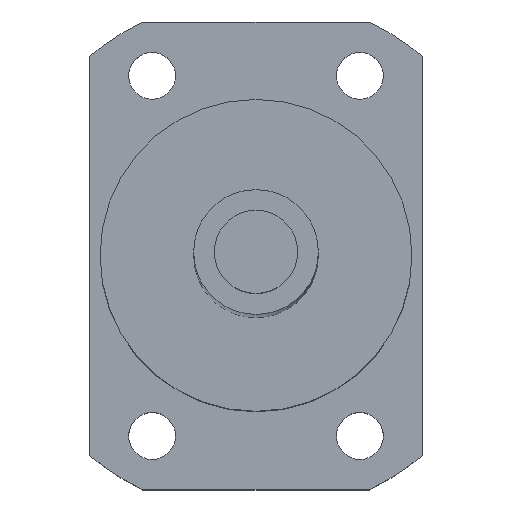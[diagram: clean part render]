
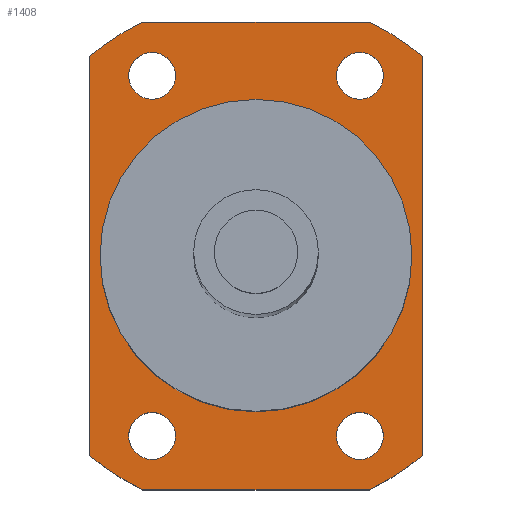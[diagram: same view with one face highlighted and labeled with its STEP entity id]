
A CAD part, top view. The second image highlights one B-rep face of the part: STEP entity #1408.
In plain terms, the highlighted planar face has unit normal (0, 0, 1).
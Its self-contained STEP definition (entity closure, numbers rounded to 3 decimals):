
#328=CARTESIAN_POINT('',(10.,17.321,255.));
#329=DIRECTION('',(0.,0.,-1.));
#330=DIRECTION('',(1.,0.,0.));
#331=AXIS2_PLACEMENT_3D('',#328,#329,#330);
#333=CARTESIAN_POINT('',(10.,17.321,255.));
#334=DIRECTION('',(0.,0.,-1.));
#335=DIRECTION('',(-1.,0.,0.));
#336=AXIS2_PLACEMENT_3D('',#333,#334,#335);
#338=CARTESIAN_POINT('',(-10.,17.321,255.));
#339=DIRECTION('',(0.,0.,-1.));
#340=DIRECTION('',(1.,0.,0.));
#341=AXIS2_PLACEMENT_3D('',#338,#339,#340);
#343=CARTESIAN_POINT('',(-10.,17.321,255.));
#344=DIRECTION('',(0.,0.,-1.));
#345=DIRECTION('',(-1.,0.,0.));
#346=AXIS2_PLACEMENT_3D('',#343,#344,#345);
#348=CARTESIAN_POINT('',(10.,-17.321,255.));
#349=DIRECTION('',(0.,0.,-1.));
#350=DIRECTION('',(1.,0.,0.));
#351=AXIS2_PLACEMENT_3D('',#348,#349,#350);
#353=CARTESIAN_POINT('',(10.,-17.321,255.));
#354=DIRECTION('',(0.,0.,-1.));
#355=DIRECTION('',(-1.,0.,0.));
#356=AXIS2_PLACEMENT_3D('',#353,#354,#355);
#358=CARTESIAN_POINT('',(-10.,-17.321,255.));
#359=DIRECTION('',(0.,0.,-1.));
#360=DIRECTION('',(1.,0.,0.));
#361=AXIS2_PLACEMENT_3D('',#358,#359,#360);
#363=CARTESIAN_POINT('',(-10.,-17.321,255.));
#364=DIRECTION('',(0.,0.,-1.));
#365=DIRECTION('',(-1.,0.,0.));
#366=AXIS2_PLACEMENT_3D('',#363,#364,#365);
#368=CARTESIAN_POINT('',(0.,0.,255.));
#369=DIRECTION('',(0.,0.,1.));
#370=DIRECTION('',(1.,0.,0.));
#371=AXIS2_PLACEMENT_3D('',#368,#369,#370);
#373=CARTESIAN_POINT('',(0.,0.,255.));
#374=DIRECTION('',(0.,0.,1.));
#375=DIRECTION('',(-1.,0.,0.));
#376=AXIS2_PLACEMENT_3D('',#373,#374,#375);
#378=DIRECTION('',(1.,0.,0.));
#379=VECTOR('',#378,21.794);
#380=CARTESIAN_POINT('',(-10.897,22.5,255.));
#381=LINE('',#380,#379);
#382=CARTESIAN_POINT('',(0.,0.,255.));
#383=DIRECTION('',(0.,0.,1.));
#384=DIRECTION('',(0.64,0.768,0.));
#385=AXIS2_PLACEMENT_3D('',#382,#383,#384);
#387=DIRECTION('',(0.,1.,0.));
#388=VECTOR('',#387,38.419);
#389=CARTESIAN_POINT('',(16.,-19.209,255.));
#390=LINE('',#389,#388);
#391=CARTESIAN_POINT('',(0.,0.,255.));
#392=DIRECTION('',(0.,0.,1.));
#393=DIRECTION('',(0.436,-0.9,0.));
#394=AXIS2_PLACEMENT_3D('',#391,#392,#393);
#396=DIRECTION('',(1.,0.,0.));
#397=VECTOR('',#396,21.794);
#398=CARTESIAN_POINT('',(-10.897,-22.5,255.));
#399=LINE('',#398,#397);
#400=CARTESIAN_POINT('',(0.,0.,255.));
#401=DIRECTION('',(0.,0.,1.));
#402=DIRECTION('',(-0.64,-0.768,0.));
#403=AXIS2_PLACEMENT_3D('',#400,#401,#402);
#405=DIRECTION('',(0.,-1.,0.));
#406=VECTOR('',#405,38.419);
#407=CARTESIAN_POINT('',(-16.,19.209,255.));
#408=LINE('',#407,#406);
#409=CARTESIAN_POINT('',(0.,0.,255.));
#410=DIRECTION('',(0.,0.,1.));
#411=DIRECTION('',(-0.436,0.9,0.));
#412=AXIS2_PLACEMENT_3D('',#409,#410,#411);
#721=CARTESIAN_POINT('',(12.25,17.321,255.));
#722=CARTESIAN_POINT('',(7.75,17.321,255.));
#723=VERTEX_POINT('',#721);
#724=VERTEX_POINT('',#722);
#725=CARTESIAN_POINT('',(-7.75,17.321,255.));
#726=CARTESIAN_POINT('',(-12.25,17.321,255.));
#727=VERTEX_POINT('',#725);
#728=VERTEX_POINT('',#726);
#729=CARTESIAN_POINT('',(12.25,-17.321,255.));
#730=CARTESIAN_POINT('',(7.75,-17.321,255.));
#731=VERTEX_POINT('',#729);
#732=VERTEX_POINT('',#730);
#733=CARTESIAN_POINT('',(-7.75,-17.321,255.));
#734=CARTESIAN_POINT('',(-12.25,-17.321,255.));
#735=VERTEX_POINT('',#733);
#736=VERTEX_POINT('',#734);
#737=CARTESIAN_POINT('',(-16.,19.209,255.));
#738=CARTESIAN_POINT('',(-16.,-19.209,255.));
#739=VERTEX_POINT('',#737);
#740=VERTEX_POINT('',#738);
#741=CARTESIAN_POINT('',(16.,-19.209,255.));
#742=CARTESIAN_POINT('',(16.,19.209,255.));
#743=VERTEX_POINT('',#741);
#744=VERTEX_POINT('',#742);
#753=CARTESIAN_POINT('',(15.,0.,255.));
#754=CARTESIAN_POINT('',(-15.,0.,255.));
#755=VERTEX_POINT('',#753);
#756=VERTEX_POINT('',#754);
#829=CARTESIAN_POINT('',(-10.897,22.5,255.));
#830=CARTESIAN_POINT('',(10.897,22.5,255.));
#831=VERTEX_POINT('',#829);
#832=VERTEX_POINT('',#830);
#833=CARTESIAN_POINT('',(-10.897,-22.5,255.));
#834=CARTESIAN_POINT('',(10.897,-22.5,255.));
#835=VERTEX_POINT('',#833);
#836=VERTEX_POINT('',#834);
#1357=CARTESIAN_POINT('',(0.,0.,255.));
#1358=DIRECTION('',(0.,0.,1.));
#1359=DIRECTION('',(1.,0.,0.));
#1360=AXIS2_PLACEMENT_3D('',#1357,#1358,#1359);
#1361=PLANE('',#1360);
#1363=ORIENTED_EDGE('',*,*,#1362,.T.);
#1365=ORIENTED_EDGE('',*,*,#1364,.F.);
#1367=ORIENTED_EDGE('',*,*,#1366,.F.);
#1369=ORIENTED_EDGE('',*,*,#1368,.F.);
#1371=ORIENTED_EDGE('',*,*,#1370,.F.);
#1373=ORIENTED_EDGE('',*,*,#1372,.F.);
#1375=ORIENTED_EDGE('',*,*,#1374,.F.);
#1377=ORIENTED_EDGE('',*,*,#1376,.F.);
#1378=EDGE_LOOP('',(#1363,#1365,#1367,#1369,#1371,#1373,#1375,#1377));
#1379=FACE_OUTER_BOUND('',#1378,.F.);
#1380=ORIENTED_EDGE('',*,*,#1337,.F.);
#1381=ORIENTED_EDGE('',*,*,#1351,.F.);
#1382=EDGE_LOOP('',(#1380,#1381));
#1383=FACE_BOUND('',#1382,.F.);
#1385=ORIENTED_EDGE('',*,*,#1384,.F.);
#1387=ORIENTED_EDGE('',*,*,#1386,.F.);
#1388=EDGE_LOOP('',(#1385,#1387));
#1389=FACE_BOUND('',#1388,.F.);
#1391=ORIENTED_EDGE('',*,*,#1390,.F.);
#1393=ORIENTED_EDGE('',*,*,#1392,.F.);
#1394=EDGE_LOOP('',(#1391,#1393));
#1395=FACE_BOUND('',#1394,.F.);
#1397=ORIENTED_EDGE('',*,*,#1396,.F.);
#1399=ORIENTED_EDGE('',*,*,#1398,.F.);
#1400=EDGE_LOOP('',(#1397,#1399));
#1401=FACE_BOUND('',#1400,.F.);
#1403=ORIENTED_EDGE('',*,*,#1402,.T.);
#1405=ORIENTED_EDGE('',*,*,#1404,.T.);
#1406=EDGE_LOOP('',(#1403,#1405));
#1407=FACE_BOUND('',#1406,.F.);
#1408=ADVANCED_FACE('',(#1379,#1383,#1389,#1395,#1401,#1407),#1361,.T.);
#332=CIRCLE('',#331,2.25);
#337=CIRCLE('',#336,2.25);
#342=CIRCLE('',#341,2.25);
#347=CIRCLE('',#346,2.25);
#352=CIRCLE('',#351,2.25);
#357=CIRCLE('',#356,2.25);
#362=CIRCLE('',#361,2.25);
#367=CIRCLE('',#366,2.25);
#372=CIRCLE('',#371,15.);
#377=CIRCLE('',#376,15.);
#386=CIRCLE('',#385,25.);
#395=CIRCLE('',#394,25.);
#404=CIRCLE('',#403,25.);
#413=CIRCLE('',#412,25.);
#1337=EDGE_CURVE('',#723,#724,#332,.T.);
#1351=EDGE_CURVE('',#724,#723,#337,.T.);
#1362=EDGE_CURVE('',#831,#832,#381,.T.);
#1364=EDGE_CURVE('',#744,#832,#386,.T.);
#1366=EDGE_CURVE('',#743,#744,#390,.T.);
#1368=EDGE_CURVE('',#836,#743,#395,.T.);
#1370=EDGE_CURVE('',#835,#836,#399,.T.);
#1372=EDGE_CURVE('',#740,#835,#404,.T.);
#1374=EDGE_CURVE('',#739,#740,#408,.T.);
#1376=EDGE_CURVE('',#831,#739,#413,.T.);
#1384=EDGE_CURVE('',#727,#728,#342,.T.);
#1386=EDGE_CURVE('',#728,#727,#347,.T.);
#1390=EDGE_CURVE('',#731,#732,#352,.T.);
#1392=EDGE_CURVE('',#732,#731,#357,.T.);
#1396=EDGE_CURVE('',#735,#736,#362,.T.);
#1398=EDGE_CURVE('',#736,#735,#367,.T.);
#1402=EDGE_CURVE('',#755,#756,#372,.T.);
#1404=EDGE_CURVE('',#756,#755,#377,.T.);
